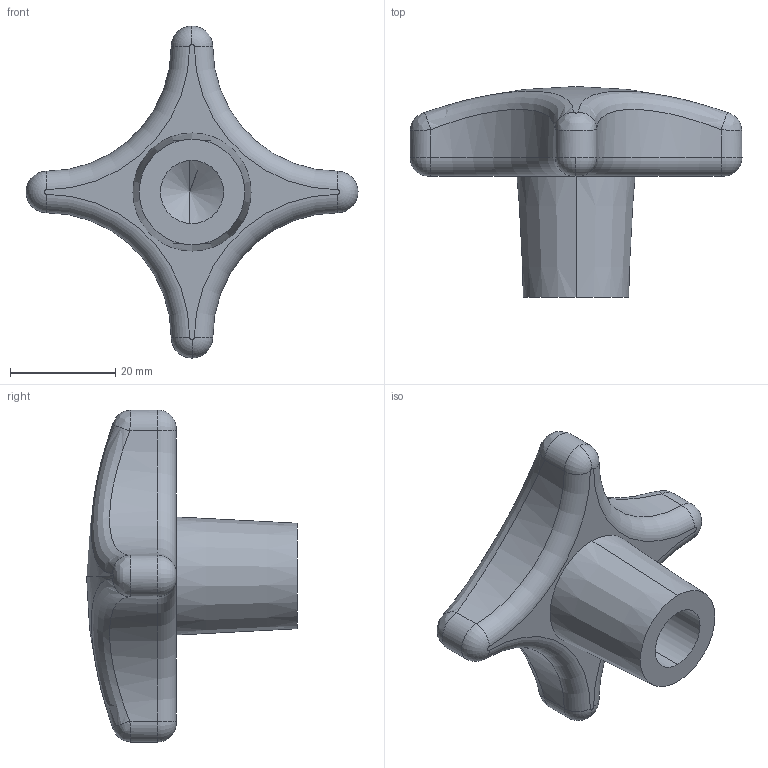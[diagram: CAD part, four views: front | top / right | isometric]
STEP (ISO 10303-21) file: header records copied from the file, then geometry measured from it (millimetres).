
FILE_DESCRIPTION (( 'STEP AP203' ), '1' );
FILE_NAME ('7000.W263.step', '2010-01-29T17:36:43', ( 'Wixroyd' ), ( 'Wixroyd' ), 'SwSTEP 2.0', 'SolidWorks 2009', '' );
FILE_SCHEMA (( 'CONFIG_CONTROL_DESIGN' ));
Length unit declared in the file: millimetre
Products named in the file (1): 7000.W263
Bounding box: 63 x 40 x 63 mm (x, y, z)
Volume: 25353.8 mm3; surface area: 7445.8 mm2
Topology: 1 solids, 1 shells, 38 faces, 88 edges, 52 vertices
Faces by surface type: cylinder 11, torus 10, bspline 8, cone 4, plane 3, sphere 2
Entity records: 6612 total; most frequent: CARTESIAN_POINT 5700, DIRECTION 181, ORIENTED_EDGE 172, EDGE_CURVE 86, AXIS2_PLACEMENT_3D 83, VERTEX_POINT 52, CIRCLE 52, EDGE_LOOP 40
